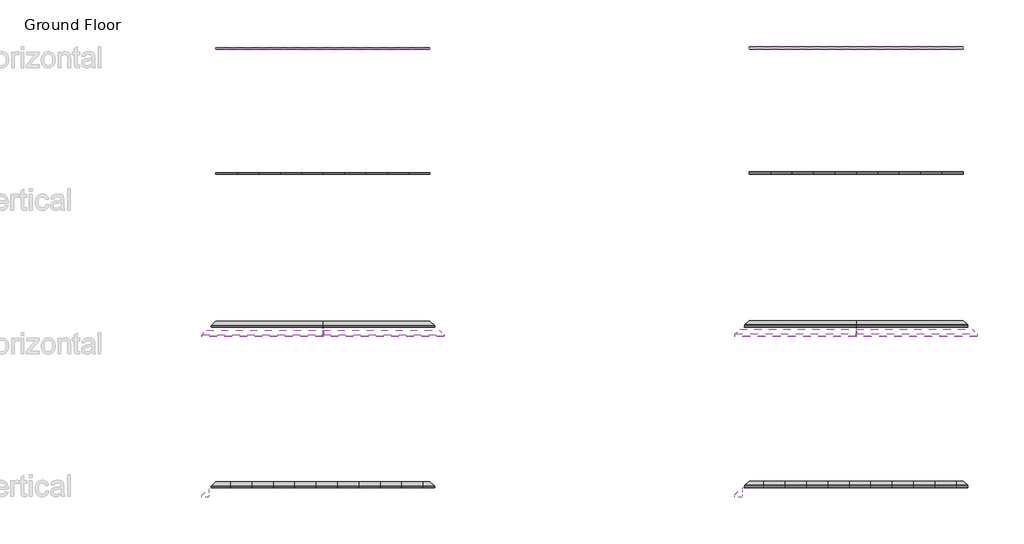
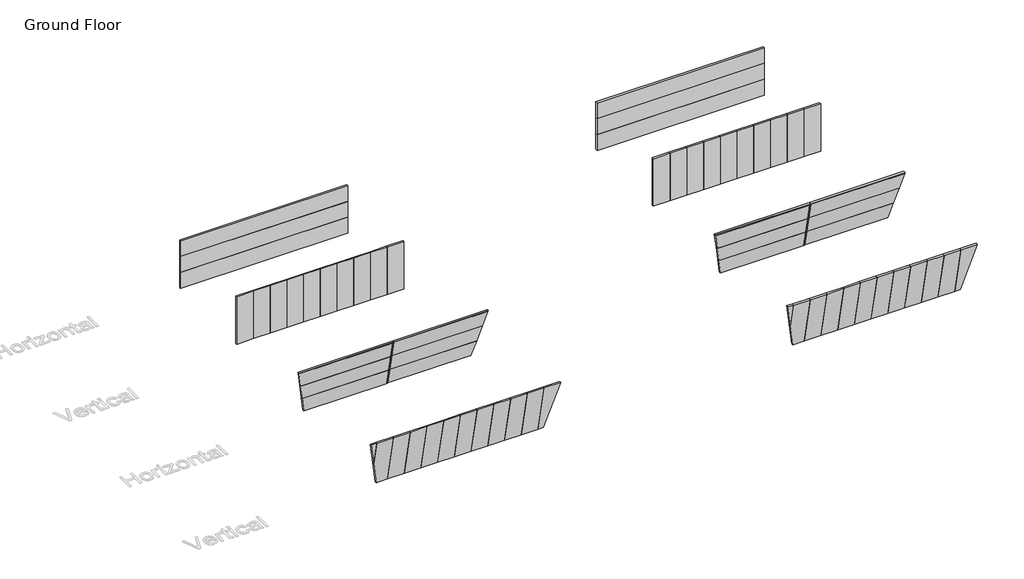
# One storey, part 1 of 6: 66 plates, 8 members.
"""IFC4 building model written with IfcOpenShell, lengths in millimetres."""

from ifc_helpers import new_model, si_unit, origin, place, context, project, spatial, transform, mapped, element, save
from components import rectangular_mullion_pi_mullion_20gap_50depth_70width_142a5764, rectangular_mullion_pi_mullion_20gap_50depth_70width_9113199f, system_panel_e583b7d1, system_panel_21d90be0, system_panel_06d0ad0e, system_panel_50c1d81c, system_panel_83c28597, system_panel_6ed0d2f5, system_panel_09da17d3, system_panel_e3531a80, system_panel_87b1fef7, system_panel_04d2545f, system_panel_518b393b, system_panel_732309b4, system_panel_87486c66, system_panel_97c61925, system_panel_3725e668, system_panel_c964174b, system_panel_261cd0d2, system_panel_01c06f13, system_panel_1a5ce206, system_panel_44df06c4, system_panel_1a889edc, system_panel_92898fe0, system_panel_1d7be7d4, system_panel_2a37176b, system_panel_2f336ff5, system_panel_6ff178a2, system_panel_6d4c7243, system_panel_f8faab37

model = new_model("IFC4")

# Units and contexts
model_context = context("Model", 3, world=origin())
ifc_project = project(units=[si_unit("LENGTHUNIT", "METRE", prefix="MILLI")], contexts=[model_context])

# Site, building, storey
site = spatial("IfcSite", under=ifc_project)
building = spatial("IfcBuilding", under=site)
storey = spatial("IfcBuildingStorey", under=building, Name="Ground Floor", Elevation=0.0)

# Members
placement = place(None, origin())
rectangular_mullion_pi_mullion_20gap_50depth_70width_shape = rectangular_mullion_pi_mullion_20gap_50depth_70width_142a5764(model_context)
element("IfcMember", 1, ObjectType="Rectangular Mullion : PI-Mullion - 20Gap-50Depth-70Width", at=placement, inside=storey, context=model_context, shape_type="MappedRepresentation", body=[
    mapped(rectangular_mullion_pi_mullion_20gap_50depth_70width_shape, transform((32029.2463003, 1262.9233771, 3600.0), x_axis=(-1.0, 0.0, 0.0), y_axis=(0.0, -0.978268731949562, -0.20734099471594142), z_axis=(0.0, -0.20734099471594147, 0.9782687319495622))),
])
element("IfcMember", 2, ObjectType="Rectangular Mullion : PI-Mullion - 20Gap-50Depth-70Width", at=placement, inside=storey, context=model_context, shape_type="MappedRepresentation", body=[
    mapped(rectangular_mullion_pi_mullion_20gap_50depth_70width_shape, transform((2129.2463003, 1262.9233771, 3600.0), x_axis=(-1.0, 0.0, 0.0), y_axis=(0.0, -0.978268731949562, -0.20734099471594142), z_axis=(0.0, -0.20734099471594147, 0.9782687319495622))),
])
rectangular_mullion_pi_mullion_20gap_50depth_70width_2_shape = rectangular_mullion_pi_mullion_20gap_50depth_70width_9113199f(model_context)
element("IfcMember", 3, ObjectType="Rectangular Mullion : PI-Mullion - 20Gap-50Depth-70Width", at=placement, inside=storey, context=model_context, shape_type="MappedRepresentation", body=[
    mapped(rectangular_mullion_pi_mullion_20gap_50depth_70width_2_shape, transform((32029.2463003, 1777.1229116, 1173.9224783), x_axis=(-1.0, 0.0, 0.0), y_axis=(0.0, -0.978268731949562, -0.20734099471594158), z_axis=(0.0, -0.20734099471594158, 0.978268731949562))),
])
element("IfcMember", 4, ObjectType="Rectangular Mullion : PI-Mullion - 20Gap-50Depth-70Width", at=placement, inside=storey, context=model_context, shape_type="MappedRepresentation", body=[
    mapped(rectangular_mullion_pi_mullion_20gap_50depth_70width_2_shape, transform((2129.2463003, 1777.1229116, 1173.9224783), x_axis=(-1.0, 0.0, 0.0), y_axis=(0.0, -0.978268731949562, -0.20734099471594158), z_axis=(0.0, -0.20734099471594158, 0.978268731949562))),
])
element("IfcMember", 5, ObjectType="Rectangular Mullion : PI-Mullion - 20Gap-50Depth-70Width", at=placement, inside=storey, context=model_context, shape_type="MappedRepresentation", body=[
    mapped(rectangular_mullion_pi_mullion_20gap_50depth_70width_2_shape, transform((32029.2463003, 1528.313718, 2347.8449567), x_axis=(-1.0, 0.0, 0.0), y_axis=(0.0, -0.978268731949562, -0.2073409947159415), z_axis=(0.0, -0.2073409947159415, 0.978268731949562))),
])
element("IfcMember", 6, ObjectType="Rectangular Mullion : PI-Mullion - 20Gap-50Depth-70Width", at=placement, inside=storey, context=model_context, shape_type="MappedRepresentation", body=[
    mapped(rectangular_mullion_pi_mullion_20gap_50depth_70width_2_shape, transform((32029.2463003, 1279.5045243, 3521.767435), x_axis=(-1.0, 0.0, 0.0), y_axis=(0.0, -0.978268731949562, -0.20734099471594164), z_axis=(0.0, -0.2073409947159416, 0.9782687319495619))),
])
element("IfcMember", 7, ObjectType="Rectangular Mullion : PI-Mullion - 20Gap-50Depth-70Width", at=placement, inside=storey, context=model_context, shape_type="MappedRepresentation", body=[
    mapped(rectangular_mullion_pi_mullion_20gap_50depth_70width_2_shape, transform((2129.2463003, 1528.313718, 2347.8449567), x_axis=(-1.0, 0.0, 0.0), y_axis=(0.0, -0.978268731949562, -0.2073409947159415), z_axis=(0.0, -0.2073409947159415, 0.978268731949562))),
])
element("IfcMember", 8, ObjectType="Rectangular Mullion : PI-Mullion - 20Gap-50Depth-70Width", at=placement, inside=storey, context=model_context, shape_type="MappedRepresentation", body=[
    mapped(rectangular_mullion_pi_mullion_20gap_50depth_70width_2_shape, transform((2129.2463003, 1279.5045243, 3521.767435), x_axis=(-1.0, 0.0, 0.0), y_axis=(0.0, -0.978268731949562, -0.20734099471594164), z_axis=(0.0, -0.2073409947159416, 0.9782687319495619))),
])

# Plates
system_panel_shape = system_panel_e583b7d1(model_context)
element("IfcPlate", 9, ObjectType="System Panel : InsulWall_90mm_Plain_Surfmist", at=placement, inside=storey, context=model_context, shape_type="MappedRepresentation", body=[
    mapped(system_panel_shape, transform((8329.2463003, -6974.0678947, 0.0), x_axis=(-1.0, 0.0, 0.0), y_axis=(0.0, -0.978268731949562, -0.20734099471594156), z_axis=(0.0, -0.20734099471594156, 0.978268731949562))),
])
system_panel_2_shape = system_panel_21d90be0(model_context)
element("IfcPlate", 10, ObjectType="System Panel : InsulWall_90mm_Plain_Surfmist", at=placement, inside=storey, context=model_context, shape_type="MappedRepresentation", body=[
    mapped(system_panel_2_shape, transform((7129.2463003, -6974.0678947, 0.0), x_axis=(-1.0, 0.0, 0.0), y_axis=(0.0, -0.978268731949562, -0.20734099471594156), z_axis=(0.0, -0.20734099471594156, 0.978268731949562))),
])
element("IfcPlate", 11, ObjectType="System Panel : InsulWall_90mm_Plain_Surfmist", at=placement, inside=storey, context=model_context, shape_type="MappedRepresentation", body=[
    mapped(system_panel_2_shape, transform((5929.2463003, -6974.0678947, 0.0), x_axis=(-1.0, 0.0, 0.0), y_axis=(0.0, -0.978268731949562, -0.20734099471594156), z_axis=(0.0, -0.20734099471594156, 0.978268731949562))),
])
element("IfcPlate", 12, ObjectType="System Panel : InsulWall_90mm_Plain_Surfmist", at=placement, inside=storey, context=model_context, shape_type="MappedRepresentation", body=[
    mapped(system_panel_2_shape, transform((4729.2463003, -6974.0678947, 0.0), x_axis=(-1.0, 0.0, 0.0), y_axis=(0.0, -0.978268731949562, -0.20734099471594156), z_axis=(0.0, -0.20734099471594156, 0.978268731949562))),
])
element("IfcPlate", 13, ObjectType="System Panel : InsulWall_90mm_Plain_Surfmist", at=placement, inside=storey, context=model_context, shape_type="MappedRepresentation", body=[
    mapped(system_panel_2_shape, transform((3529.2463003, -6974.0678947, 0.0), x_axis=(-1.0, 0.0, 0.0), y_axis=(0.0, -0.978268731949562, -0.20734099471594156), z_axis=(0.0, -0.20734099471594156, 0.978268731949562))),
])
element("IfcPlate", 14, ObjectType="System Panel : InsulWall_90mm_Plain_Surfmist", at=placement, inside=storey, context=model_context, shape_type="MappedRepresentation", body=[
    mapped(system_panel_2_shape, transform((2329.2463003, -6974.0678947, 0.0), x_axis=(-1.0, 0.0, 0.0), y_axis=(0.0, -0.978268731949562, -0.20734099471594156), z_axis=(0.0, -0.20734099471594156, 0.978268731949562))),
])
element("IfcPlate", 15, ObjectType="System Panel : InsulWall_90mm_Plain_Surfmist", at=placement, inside=storey, context=model_context, shape_type="MappedRepresentation", body=[
    mapped(system_panel_2_shape, transform((1129.2463003, -6974.0678947, 0.0), x_axis=(-1.0, 0.0, 0.0), y_axis=(0.0, -0.978268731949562, -0.20734099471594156), z_axis=(0.0, -0.20734099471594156, 0.978268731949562))),
])
element("IfcPlate", 16, ObjectType="System Panel : InsulWall_90mm_Plain_Surfmist", at=placement, inside=storey, context=model_context, shape_type="MappedRepresentation", body=[
    mapped(system_panel_2_shape, transform((-70.7536997, -6974.0678947, 0.0), x_axis=(-1.0, 0.0, 0.0), y_axis=(0.0, -0.978268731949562, -0.20734099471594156), z_axis=(0.0, -0.20734099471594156, 0.978268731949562))),
])
element("IfcPlate", 17, ObjectType="System Panel : InsulWall_90mm_Plain_Surfmist", at=placement, inside=storey, context=model_context, shape_type="MappedRepresentation", body=[
    mapped(system_panel_2_shape, transform((-1270.7536997, -6974.0678947, 0.0), x_axis=(-1.0, 0.0, 0.0), y_axis=(0.0, -0.978268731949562, -0.20734099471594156), z_axis=(0.0, -0.20734099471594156, 0.978268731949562))),
])
element("IfcPlate", 18, ObjectType="System Panel : InsulWall_90mm_Plain_Surfmist", at=placement, inside=storey, context=model_context, shape_type="MappedRepresentation", body=[
    mapped(system_panel_2_shape, transform((-2470.7536997, -6974.0678947, 0.0), x_axis=(-1.0, 0.0, 0.0), y_axis=(0.0, -0.978268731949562, -0.20734099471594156), z_axis=(0.0, -0.20734099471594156, 0.978268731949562))),
])
system_panel_3_shape = system_panel_06d0ad0e(model_context)
element("IfcPlate", 19, ObjectType="System Panel : InsulWall_90mm_Plain_Surfmist", at=placement, inside=storey, context=model_context, shape_type="MappedRepresentation", body=[
    mapped(system_panel_3_shape, transform((-3670.7536997, -6974.0678947, 0.0), x_axis=(-1.0, 0.0, 0.0), y_axis=(0.0, -0.978268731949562, -0.20734099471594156), z_axis=(0.0, -0.20734099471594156, 0.978268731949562))),
])
system_panel_4_shape = system_panel_50c1d81c(model_context)
element("IfcPlate", 20, ObjectType="System Panel : InsulWall_90mm_Plain_Surfmist", at=placement, inside=storey, context=model_context, shape_type="MappedRepresentation", body=[
    mapped(system_panel_4_shape, transform((-4470.7536997, -7355.5722588, 1800.0), x_axis=(-1.0, 0.0, 0.0), y_axis=(0.0, -0.978268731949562, -0.20734099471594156), z_axis=(0.0, -0.20734099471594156, 0.978268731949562))),
])
system_panel_5_shape = system_panel_83c28597(model_context)
element("IfcPlate", 21, ObjectType="System Panel : InsulWall_140mm_Plain_Surfmist", at=placement, inside=storey, context=model_context, shape_type="MappedRepresentation", body=[
    mapped(system_panel_5_shape, transform((38229.2463003, -6974.0678947, 0.0), x_axis=(-1.0, 0.0, 0.0), y_axis=(0.0, -0.978268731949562, -0.20734099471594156), z_axis=(0.0, -0.20734099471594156, 0.978268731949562))),
])
system_panel_6_shape = system_panel_6ed0d2f5(model_context)
element("IfcPlate", 22, ObjectType="System Panel : InsulWall_140mm_Plain_Surfmist", at=placement, inside=storey, context=model_context, shape_type="MappedRepresentation", body=[
    mapped(system_panel_6_shape, transform((37029.2463003, -6974.0678947, 0.0), x_axis=(-1.0, 0.0, 0.0), y_axis=(0.0, -0.978268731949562, -0.20734099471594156), z_axis=(0.0, -0.20734099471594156, 0.978268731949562))),
])
element("IfcPlate", 23, ObjectType="System Panel : InsulWall_140mm_Plain_Surfmist", at=placement, inside=storey, context=model_context, shape_type="MappedRepresentation", body=[
    mapped(system_panel_6_shape, transform((35829.2463003, -6974.0678947, 0.0), x_axis=(-1.0, 0.0, 0.0), y_axis=(0.0, -0.978268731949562, -0.20734099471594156), z_axis=(0.0, -0.20734099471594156, 0.978268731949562))),
])
element("IfcPlate", 24, ObjectType="System Panel : InsulWall_140mm_Plain_Surfmist", at=placement, inside=storey, context=model_context, shape_type="MappedRepresentation", body=[
    mapped(system_panel_6_shape, transform((34629.2463003, -6974.0678947, 0.0), x_axis=(-1.0, 0.0, 0.0), y_axis=(0.0, -0.978268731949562, -0.20734099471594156), z_axis=(0.0, -0.20734099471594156, 0.978268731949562))),
])
element("IfcPlate", 25, ObjectType="System Panel : InsulWall_140mm_Plain_Surfmist", at=placement, inside=storey, context=model_context, shape_type="MappedRepresentation", body=[
    mapped(system_panel_6_shape, transform((33429.2463003, -6974.0678947, 0.0), x_axis=(-1.0, 0.0, 0.0), y_axis=(0.0, -0.978268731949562, -0.20734099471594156), z_axis=(0.0, -0.20734099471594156, 0.978268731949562))),
])
element("IfcPlate", 26, ObjectType="System Panel : InsulWall_140mm_Plain_Surfmist", at=placement, inside=storey, context=model_context, shape_type="MappedRepresentation", body=[
    mapped(system_panel_6_shape, transform((32229.2463003, -6974.0678947, 0.0), x_axis=(-1.0, 0.0, 0.0), y_axis=(0.0, -0.978268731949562, -0.20734099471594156), z_axis=(0.0, -0.20734099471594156, 0.978268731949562))),
])
element("IfcPlate", 27, ObjectType="System Panel : InsulWall_140mm_Plain_Surfmist", at=placement, inside=storey, context=model_context, shape_type="MappedRepresentation", body=[
    mapped(system_panel_6_shape, transform((31029.2463003, -6974.0678947, 0.0), x_axis=(-1.0, 0.0, 0.0), y_axis=(0.0, -0.978268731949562, -0.20734099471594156), z_axis=(0.0, -0.20734099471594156, 0.978268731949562))),
])
element("IfcPlate", 28, ObjectType="System Panel : InsulWall_140mm_Plain_Surfmist", at=placement, inside=storey, context=model_context, shape_type="MappedRepresentation", body=[
    mapped(system_panel_6_shape, transform((29829.2463003, -6974.0678947, 0.0), x_axis=(-1.0, 0.0, 0.0), y_axis=(0.0, -0.978268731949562, -0.20734099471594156), z_axis=(0.0, -0.20734099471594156, 0.978268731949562))),
])
element("IfcPlate", 29, ObjectType="System Panel : InsulWall_140mm_Plain_Surfmist", at=placement, inside=storey, context=model_context, shape_type="MappedRepresentation", body=[
    mapped(system_panel_6_shape, transform((28629.2463003, -6974.0678947, 0.0), x_axis=(-1.0, 0.0, 0.0), y_axis=(0.0, -0.978268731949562, -0.20734099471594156), z_axis=(0.0, -0.20734099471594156, 0.978268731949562))),
])
element("IfcPlate", 30, ObjectType="System Panel : InsulWall_140mm_Plain_Surfmist", at=placement, inside=storey, context=model_context, shape_type="MappedRepresentation", body=[
    mapped(system_panel_6_shape, transform((27429.2463003, -6974.0678947, 0.0), x_axis=(-1.0, 0.0, 0.0), y_axis=(0.0, -0.978268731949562, -0.20734099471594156), z_axis=(0.0, -0.20734099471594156, 0.978268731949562))),
])
system_panel_7_shape = system_panel_09da17d3(model_context)
element("IfcPlate", 31, ObjectType="System Panel : InsulWall_140mm_Plain_Surfmist", at=placement, inside=storey, context=model_context, shape_type="MappedRepresentation", body=[
    mapped(system_panel_7_shape, transform((26229.2463003, -6974.0678947, 0.0), x_axis=(-1.0, 0.0, 0.0), y_axis=(0.0, -0.978268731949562, -0.20734099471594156), z_axis=(0.0, -0.20734099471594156, 0.978268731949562))),
])
system_panel_8_shape = system_panel_e3531a80(model_context)
element("IfcPlate", 32, ObjectType="System Panel : InsulWall_140mm_Plain_Surfmist", at=placement, inside=storey, context=model_context, shape_type="MappedRepresentation", body=[
    mapped(system_panel_8_shape, transform((25429.2463003, -7355.5722588, 1800.0), x_axis=(-1.0, 0.0, 0.0), y_axis=(0.0, -0.978268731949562, -0.20734099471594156), z_axis=(0.0, -0.20734099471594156, 0.978268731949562))),
])
system_panel_9_shape = system_panel_87b1fef7(model_context)
element("IfcPlate", 33, ObjectType="System Panel : InsulWall_90mm_Plain_Surfmist", at=placement, inside=storey, context=model_context, shape_type="MappedRepresentation", body=[
    mapped(system_panel_9_shape, transform((2129.2463003, 17365.9321053, 0.0), x_axis=(1.0, 0.0, 0.0), y_axis=(0.0, 1.0, 0.0), z_axis=(0.0, 0.0, 1.0))),
])
element("IfcPlate", 34, ObjectType="System Panel : InsulWall_90mm_Plain_Surfmist", at=placement, inside=storey, context=model_context, shape_type="MappedRepresentation", body=[
    mapped(system_panel_9_shape, transform((2129.2463003, 17365.9321053, 1200.0), x_axis=(1.0, 0.0, 0.0), y_axis=(0.0, 1.0, 0.0), z_axis=(0.0, 0.0, 1.0))),
])
element("IfcPlate", 35, ObjectType="System Panel : InsulWall_90mm_Plain_Surfmist", at=placement, inside=storey, context=model_context, shape_type="MappedRepresentation", body=[
    mapped(system_panel_9_shape, transform((2129.2463003, 17365.9321053, 2400.0), x_axis=(1.0, 0.0, 0.0), y_axis=(0.0, 1.0, 0.0), z_axis=(0.0, 0.0, 1.0))),
])
system_panel_10_shape = system_panel_04d2545f(model_context)
element("IfcPlate", 36, ObjectType="System Panel : InsulWall_90mm_Plain_Surfmist", at=placement, inside=storey, context=model_context, shape_type="MappedRepresentation", body=[
    mapped(system_panel_10_shape, transform((-3270.7536997, 10365.9321053, 0.0), x_axis=(1.0, 0.0, 0.0), y_axis=(0.0, 1.0, 0.0), z_axis=(0.0, 0.0, 1.0))),
])
element("IfcPlate", 37, ObjectType="System Panel : InsulWall_90mm_Plain_Surfmist", at=placement, inside=storey, context=model_context, shape_type="MappedRepresentation", body=[
    mapped(system_panel_10_shape, transform((-870.7536997, 10365.9321053, 0.0), x_axis=(1.0, 0.0, 0.0), y_axis=(0.0, 1.0, 0.0), z_axis=(0.0, 0.0, 1.0))),
])
element("IfcPlate", 38, ObjectType="System Panel : InsulWall_90mm_Plain_Surfmist", at=placement, inside=storey, context=model_context, shape_type="MappedRepresentation", body=[
    mapped(system_panel_10_shape, transform((329.2463003, 10365.9321053, 0.0), x_axis=(1.0, 0.0, 0.0), y_axis=(0.0, 1.0, 0.0), z_axis=(0.0, 0.0, 1.0))),
])
element("IfcPlate", 39, ObjectType="System Panel : InsulWall_90mm_Plain_Surfmist", at=placement, inside=storey, context=model_context, shape_type="MappedRepresentation", body=[
    mapped(system_panel_10_shape, transform((1529.2463003, 10365.9321053, 0.0), x_axis=(1.0, 0.0, 0.0), y_axis=(0.0, 1.0, 0.0), z_axis=(0.0, 0.0, 1.0))),
])
element("IfcPlate", 40, ObjectType="System Panel : InsulWall_90mm_Plain_Surfmist", at=placement, inside=storey, context=model_context, shape_type="MappedRepresentation", body=[
    mapped(system_panel_10_shape, transform((2729.2463003, 10365.9321053, 0.0), x_axis=(1.0, 0.0, 0.0), y_axis=(0.0, 1.0, 0.0), z_axis=(0.0, 0.0, 1.0))),
])
element("IfcPlate", 41, ObjectType="System Panel : InsulWall_90mm_Plain_Surfmist", at=placement, inside=storey, context=model_context, shape_type="MappedRepresentation", body=[
    mapped(system_panel_10_shape, transform((3929.2463003, 10365.9321053, 0.0), x_axis=(1.0, 0.0, 0.0), y_axis=(0.0, 1.0, 0.0), z_axis=(0.0, 0.0, 1.0))),
])
element("IfcPlate", 42, ObjectType="System Panel : InsulWall_90mm_Plain_Surfmist", at=placement, inside=storey, context=model_context, shape_type="MappedRepresentation", body=[
    mapped(system_panel_10_shape, transform((5129.2463003, 10365.9321053, 0.0), x_axis=(1.0, 0.0, 0.0), y_axis=(0.0, 1.0, 0.0), z_axis=(0.0, 0.0, 1.0))),
])
element("IfcPlate", 43, ObjectType="System Panel : InsulWall_90mm_Plain_Surfmist", at=placement, inside=storey, context=model_context, shape_type="MappedRepresentation", body=[
    mapped(system_panel_10_shape, transform((6329.2463003, 10365.9321053, 0.0), x_axis=(1.0, 0.0, 0.0), y_axis=(0.0, 1.0, 0.0), z_axis=(0.0, 0.0, 1.0))),
])
element("IfcPlate", 44, ObjectType="System Panel : InsulWall_90mm_Plain_Surfmist", at=placement, inside=storey, context=model_context, shape_type="MappedRepresentation", body=[
    mapped(system_panel_10_shape, transform((7529.2463003, 10365.9321053, 0.0), x_axis=(1.0, 0.0, 0.0), y_axis=(0.0, 1.0, 0.0), z_axis=(0.0, 0.0, 1.0))),
])
element("IfcPlate", 45, ObjectType="System Panel : InsulWall_90mm_Plain_Surfmist", at=placement, inside=storey, context=model_context, shape_type="MappedRepresentation", body=[
    mapped(system_panel_10_shape, transform((-2070.7536997, 10365.9321053, 0.0), x_axis=(1.0, 0.0, 0.0), y_axis=(0.0, 1.0, 0.0), z_axis=(0.0, 0.0, 1.0))),
])
system_panel_11_shape = system_panel_518b393b(model_context)
element("IfcPlate", 46, ObjectType="System Panel : InsulWall_140mm_Plain_Surfmist", at=placement, inside=storey, context=model_context, shape_type="MappedRepresentation", body=[
    mapped(system_panel_11_shape, transform((26629.2463003, 10365.9321053, 0.0), x_axis=(1.0, 0.0, 0.0), y_axis=(0.0, 1.0, 0.0), z_axis=(0.0, 0.0, 1.0))),
])
element("IfcPlate", 47, ObjectType="System Panel : InsulWall_140mm_Plain_Surfmist", at=placement, inside=storey, context=model_context, shape_type="MappedRepresentation", body=[
    mapped(system_panel_11_shape, transform((29029.2463003, 10365.9321053, 0.0), x_axis=(1.0, 0.0, 0.0), y_axis=(0.0, 1.0, 0.0), z_axis=(0.0, 0.0, 1.0))),
])
element("IfcPlate", 48, ObjectType="System Panel : InsulWall_140mm_Plain_Surfmist", at=placement, inside=storey, context=model_context, shape_type="MappedRepresentation", body=[
    mapped(system_panel_11_shape, transform((30229.2463003, 10365.9321053, 0.0), x_axis=(1.0, 0.0, 0.0), y_axis=(0.0, 1.0, 0.0), z_axis=(0.0, 0.0, 1.0))),
])
element("IfcPlate", 49, ObjectType="System Panel : InsulWall_140mm_Plain_Surfmist", at=placement, inside=storey, context=model_context, shape_type="MappedRepresentation", body=[
    mapped(system_panel_11_shape, transform((31429.2463003, 10365.9321053, 0.0), x_axis=(1.0, 0.0, 0.0), y_axis=(0.0, 1.0, 0.0), z_axis=(0.0, 0.0, 1.0))),
])
element("IfcPlate", 50, ObjectType="System Panel : InsulWall_140mm_Plain_Surfmist", at=placement, inside=storey, context=model_context, shape_type="MappedRepresentation", body=[
    mapped(system_panel_11_shape, transform((32629.2463003, 10365.9321053, 0.0), x_axis=(1.0, 0.0, 0.0), y_axis=(0.0, 1.0, 0.0), z_axis=(0.0, 0.0, 1.0))),
])
element("IfcPlate", 51, ObjectType="System Panel : InsulWall_140mm_Plain_Surfmist", at=placement, inside=storey, context=model_context, shape_type="MappedRepresentation", body=[
    mapped(system_panel_11_shape, transform((33829.2463003, 10365.9321053, 0.0), x_axis=(1.0, 0.0, 0.0), y_axis=(0.0, 1.0, 0.0), z_axis=(0.0, 0.0, 1.0))),
])
element("IfcPlate", 52, ObjectType="System Panel : InsulWall_140mm_Plain_Surfmist", at=placement, inside=storey, context=model_context, shape_type="MappedRepresentation", body=[
    mapped(system_panel_11_shape, transform((35029.2463003, 10365.9321053, 0.0), x_axis=(1.0, 0.0, 0.0), y_axis=(0.0, 1.0, 0.0), z_axis=(0.0, 0.0, 1.0))),
])
element("IfcPlate", 53, ObjectType="System Panel : InsulWall_140mm_Plain_Surfmist", at=placement, inside=storey, context=model_context, shape_type="MappedRepresentation", body=[
    mapped(system_panel_11_shape, transform((36229.2463003, 10365.9321053, 0.0), x_axis=(1.0, 0.0, 0.0), y_axis=(0.0, 1.0, 0.0), z_axis=(0.0, 0.0, 1.0))),
])
element("IfcPlate", 54, ObjectType="System Panel : InsulWall_140mm_Plain_Surfmist", at=placement, inside=storey, context=model_context, shape_type="MappedRepresentation", body=[
    mapped(system_panel_11_shape, transform((37429.2463003, 10365.9321053, 0.0), x_axis=(1.0, 0.0, 0.0), y_axis=(0.0, 1.0, 0.0), z_axis=(0.0, 0.0, 1.0))),
])
element("IfcPlate", 55, ObjectType="System Panel : InsulWall_140mm_Plain_Surfmist", at=placement, inside=storey, context=model_context, shape_type="MappedRepresentation", body=[
    mapped(system_panel_11_shape, transform((27829.2463003, 10365.9321053, 0.0), x_axis=(1.0, 0.0, 0.0), y_axis=(0.0, 1.0, 0.0), z_axis=(0.0, 0.0, 1.0))),
])
system_panel_12_shape = system_panel_732309b4(model_context)
element("IfcPlate", 56, ObjectType="System Panel : InsulWall_140mm_Plain_Surfmist", at=placement, inside=storey, context=model_context, shape_type="MappedRepresentation", body=[
    mapped(system_panel_12_shape, transform((32029.2463003, 17365.9321053, 0.0), x_axis=(1.0, 0.0, 0.0), y_axis=(0.0, 1.0, 0.0), z_axis=(0.0, 0.0, 1.0))),
])
element("IfcPlate", 57, ObjectType="System Panel : InsulWall_140mm_Plain_Surfmist", at=placement, inside=storey, context=model_context, shape_type="MappedRepresentation", body=[
    mapped(system_panel_12_shape, transform((32029.2463003, 17365.9321053, 1200.0), x_axis=(1.0, 0.0, 0.0), y_axis=(0.0, 1.0, 0.0), z_axis=(0.0, 0.0, 1.0))),
])
element("IfcPlate", 58, ObjectType="System Panel : InsulWall_140mm_Plain_Surfmist", at=placement, inside=storey, context=model_context, shape_type="MappedRepresentation", body=[
    mapped(system_panel_12_shape, transform((32029.2463003, 17365.9321053, 2400.0), x_axis=(1.0, 0.0, 0.0), y_axis=(0.0, 1.0, 0.0), z_axis=(0.0, 0.0, 1.0))),
])
system_panel_13_shape = system_panel_87486c66(model_context)
element("IfcPlate", 59, ObjectType="System Panel : InsulWall_90mm_Plain_Surfmist", at=placement, inside=storey, context=model_context, shape_type="MappedRepresentation", body=[
    mapped(system_panel_13_shape, transform((5264.6821312, 2025.9321053, 0.0), x_axis=(-1.0, 0.0, 0.0), y_axis=(0.0, -0.978268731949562, -0.20734099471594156), z_axis=(0.0, -0.20734099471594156, 0.978268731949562))),
])
system_panel_14_shape = system_panel_97c61925(model_context)
element("IfcPlate", 60, ObjectType="System Panel : InsulWall_90mm_Plain_Surfmist", at=placement, inside=storey, context=model_context, shape_type="MappedRepresentation", body=[
    mapped(system_panel_14_shape, transform((5395.1179621, 1777.1229116, 1173.9224783), x_axis=(-1.0, 0.0, 0.0), y_axis=(0.0, -0.978268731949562, -0.20734099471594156), z_axis=(0.0, -0.20734099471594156, 0.978268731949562))),
])
system_panel_15_shape = system_panel_3725e668(model_context)
element("IfcPlate", 61, ObjectType="System Panel : InsulWall_90mm_Plain_Surfmist", at=placement, inside=storey, context=model_context, shape_type="MappedRepresentation", body=[
    mapped(system_panel_15_shape, transform((5525.553793, 1528.313718, 2347.8449567), x_axis=(-1.0, 0.0, 0.0), y_axis=(0.0, -0.978268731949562, -0.20734099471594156), z_axis=(0.0, -0.20734099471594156, 0.978268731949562))),
])
system_panel_16_shape = system_panel_c964174b(model_context)
element("IfcPlate", 62, ObjectType="System Panel : InsulWall_90mm_Plain_Surfmist", at=placement, inside=storey, context=model_context, shape_type="MappedRepresentation", body=[
    mapped(system_panel_16_shape, transform((5534.2463003, 1279.5045243, 3521.767435), x_axis=(-1.0, 0.0, 0.0), y_axis=(0.0, -0.978268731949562, -0.20734099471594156), z_axis=(0.0, -0.20734099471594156, 0.978268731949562))),
])
system_panel_17_shape = system_panel_261cd0d2(model_context)
element("IfcPlate", 63, ObjectType="System Panel : InsulWall_90mm_Plain_Surfmist", at=placement, inside=storey, context=model_context, shape_type="MappedRepresentation", body=[
    mapped(system_panel_17_shape, transform((-1006.1895307, 2025.9321053, 0.0), x_axis=(-1.0, 0.0, 0.0), y_axis=(0.0, -0.978268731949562, -0.20734099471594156), z_axis=(0.0, -0.20734099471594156, 0.978268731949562))),
])
system_panel_18_shape = system_panel_01c06f13(model_context)
element("IfcPlate", 64, ObjectType="System Panel : InsulWall_90mm_Plain_Surfmist", at=placement, inside=storey, context=model_context, shape_type="MappedRepresentation", body=[
    mapped(system_panel_18_shape, transform((-1136.6253616, 1777.1229116, 1173.9224783), x_axis=(-1.0, 0.0, 0.0), y_axis=(0.0, -0.978268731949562, -0.20734099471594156), z_axis=(0.0, -0.20734099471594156, 0.978268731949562))),
])
system_panel_19_shape = system_panel_1a5ce206(model_context)
element("IfcPlate", 65, ObjectType="System Panel : InsulWall_90mm_Plain_Surfmist", at=placement, inside=storey, context=model_context, shape_type="MappedRepresentation", body=[
    mapped(system_panel_19_shape, transform((-1267.0611925, 1528.313718, 2347.8449567), x_axis=(-1.0, 0.0, 0.0), y_axis=(0.0, -0.978268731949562, -0.20734099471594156), z_axis=(0.0, -0.20734099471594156, 0.978268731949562))),
])
system_panel_20_shape = system_panel_44df06c4(model_context)
element("IfcPlate", 66, ObjectType="System Panel : InsulWall_90mm_Plain_Surfmist", at=placement, inside=storey, context=model_context, shape_type="MappedRepresentation", body=[
    mapped(system_panel_20_shape, transform((-1275.7536997, 1279.5045243, 3521.767435), x_axis=(-1.0, 0.0, 0.0), y_axis=(0.0, -0.978268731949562, -0.20734099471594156), z_axis=(0.0, -0.20734099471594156, 0.978268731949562))),
])
system_panel_21_shape = system_panel_1a889edc(model_context)
element("IfcPlate", 67, ObjectType="System Panel : InsulWall_140mm_Plain_Surfmist", at=placement, inside=storey, context=model_context, shape_type="MappedRepresentation", body=[
    mapped(system_panel_21_shape, transform((35164.6821312, 2025.9321053, 0.0), x_axis=(-1.0, 0.0, 0.0), y_axis=(0.0, -0.978268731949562, -0.20734099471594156), z_axis=(0.0, -0.20734099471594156, 0.978268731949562))),
])
system_panel_22_shape = system_panel_92898fe0(model_context)
element("IfcPlate", 68, ObjectType="System Panel : InsulWall_140mm_Plain_Surfmist", at=placement, inside=storey, context=model_context, shape_type="MappedRepresentation", body=[
    mapped(system_panel_22_shape, transform((35295.1179621, 1777.1229116, 1173.9224783), x_axis=(-1.0, 0.0, 0.0), y_axis=(0.0, -0.978268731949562, -0.20734099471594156), z_axis=(0.0, -0.20734099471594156, 0.978268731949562))),
])
system_panel_23_shape = system_panel_1d7be7d4(model_context)
element("IfcPlate", 69, ObjectType="System Panel : InsulWall_140mm_Plain_Surfmist", at=placement, inside=storey, context=model_context, shape_type="MappedRepresentation", body=[
    mapped(system_panel_23_shape, transform((35425.553793, 1528.313718, 2347.8449567), x_axis=(-1.0, 0.0, 0.0), y_axis=(0.0, -0.978268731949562, -0.20734099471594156), z_axis=(0.0, -0.20734099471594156, 0.978268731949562))),
])
system_panel_24_shape = system_panel_2a37176b(model_context)
element("IfcPlate", 70, ObjectType="System Panel : InsulWall_140mm_Plain_Surfmist", at=placement, inside=storey, context=model_context, shape_type="MappedRepresentation", body=[
    mapped(system_panel_24_shape, transform((35434.2463003, 1279.5045243, 3521.767435), x_axis=(-1.0, 0.0, 0.0), y_axis=(0.0, -0.978268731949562, -0.20734099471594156), z_axis=(0.0, -0.20734099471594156, 0.978268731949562))),
])
system_panel_25_shape = system_panel_2f336ff5(model_context)
element("IfcPlate", 71, ObjectType="System Panel : InsulWall_140mm_Plain_Surfmist", at=placement, inside=storey, context=model_context, shape_type="MappedRepresentation", body=[
    mapped(system_panel_25_shape, transform((28893.8104693, 2025.9321053, 0.0), x_axis=(-1.0, 0.0, 0.0), y_axis=(0.0, -0.978268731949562, -0.20734099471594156), z_axis=(0.0, -0.20734099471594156, 0.978268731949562))),
])
system_panel_26_shape = system_panel_6ff178a2(model_context)
element("IfcPlate", 72, ObjectType="System Panel : InsulWall_140mm_Plain_Surfmist", at=placement, inside=storey, context=model_context, shape_type="MappedRepresentation", body=[
    mapped(system_panel_26_shape, transform((28763.3746384, 1777.1229116, 1173.9224783), x_axis=(-1.0, 0.0, 0.0), y_axis=(0.0, -0.978268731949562, -0.20734099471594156), z_axis=(0.0, -0.20734099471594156, 0.978268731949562))),
])
system_panel_27_shape = system_panel_6d4c7243(model_context)
element("IfcPlate", 73, ObjectType="System Panel : InsulWall_140mm_Plain_Surfmist", at=placement, inside=storey, context=model_context, shape_type="MappedRepresentation", body=[
    mapped(system_panel_27_shape, transform((28632.9388075, 1528.313718, 2347.8449567), x_axis=(-1.0, 0.0, 0.0), y_axis=(0.0, -0.978268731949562, -0.20734099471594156), z_axis=(0.0, -0.20734099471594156, 0.978268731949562))),
])
system_panel_28_shape = system_panel_f8faab37(model_context)
element("IfcPlate", 74, ObjectType="System Panel : InsulWall_140mm_Plain_Surfmist", at=placement, inside=storey, context=model_context, shape_type="MappedRepresentation", body=[
    mapped(system_panel_28_shape, transform((28624.2463003, 1279.5045243, 3521.767435), x_axis=(-1.0, 0.0, 0.0), y_axis=(0.0, -0.978268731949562, -0.20734099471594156), z_axis=(0.0, -0.20734099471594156, 0.978268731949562))),
])

save(model, "model.ifc")
